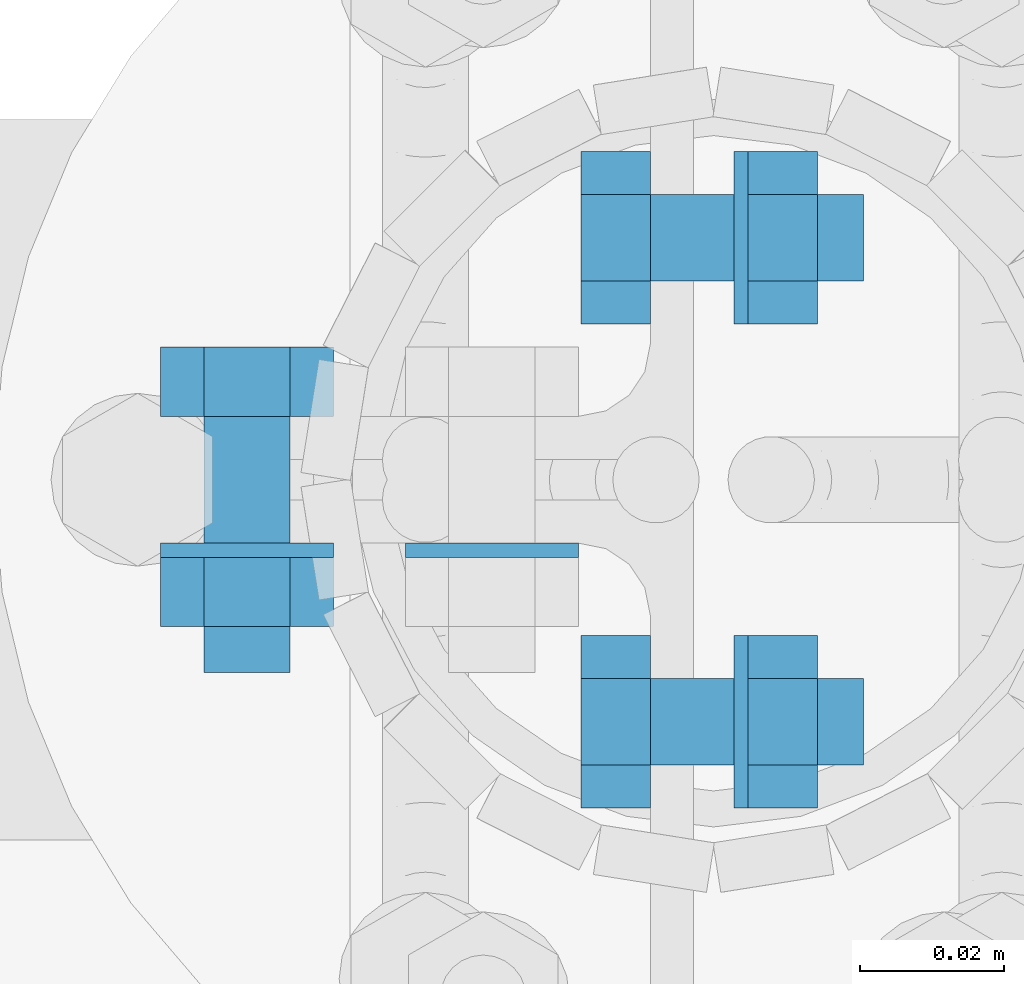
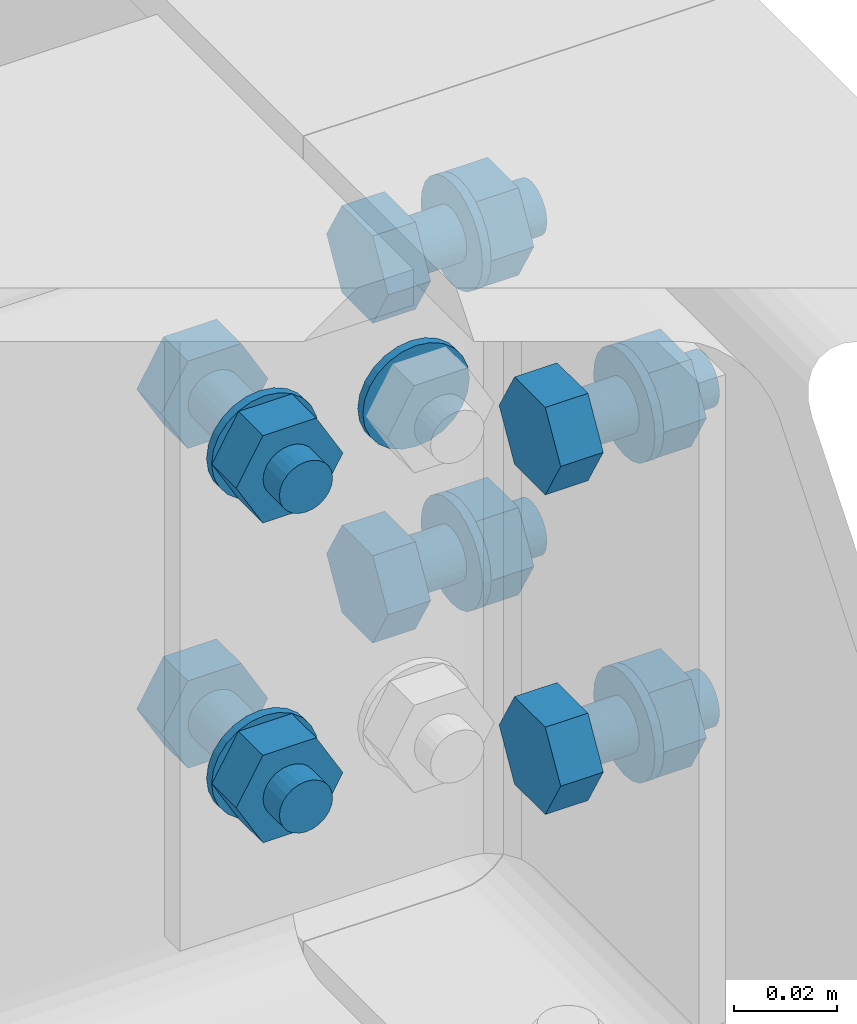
# One storey, part 71 of 84: 25 mechanical fasteners.
"""IFC4 building model written with IfcOpenShell, lengths in metres."""

from ifc_helpers import new_model, si_unit, frame, origin_with_axes, place, context, project, spatial, polyline, outline, extrude, type_object, element, save


model = new_model("IFC4")

# Units and contexts
model_context = context("Model", 3, precision=1e-05, world=origin_with_axes())
ifc_project = project(units=[si_unit("LENGTHUNIT", "METRE"), si_unit("AREAUNIT", "SQUARE_METRE"), si_unit("VOLUMEUNIT", "CUBIC_METRE"), si_unit("MASSUNIT", "GRAM", prefix="KILO"), si_unit("TIMEUNIT", "SECOND"), si_unit("PLANEANGLEUNIT", "RADIAN"), si_unit("SOLIDANGLEUNIT", "STERADIAN"), si_unit("THERMODYNAMICTEMPERATUREUNIT", "DEGREE_CELSIUS")], contexts=[model_context])

# Site, building, storey
placement_1 = place(None, origin_with_axes())
site = spatial("IfcSite", under=ifc_project, at=placement_1, Name="Italia", CompositionType="ELEMENT")
building = spatial("IfcBuilding", under=site, at=placement_1, Name="Tettoia", CompositionType="ELEMENT")
storey_placement = place(None, frame((0.0, 0.0, 4.199999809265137), z_axis=(0.0, 0.0, 1.0), x_axis=(1.0, 0.0, 0.0)))
storey = spatial("IfcBuildingStorey", under=building, at=storey_placement, Name="Storey 1", CompositionType="ELEMENT", Elevation=4.199999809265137)

# Mechanical fasteners
mechanical_fastener_type_1 = type_object("IfcMechanicalFastenerType", Name="Collegamento 0113_-016", PredefinedType="BOLT")
placement_2 = place(placement_1, origin_with_axes())
mechanical_fastener_1_placement = place(placement_2, origin_with_axes())
element("IfcMechanicalFastener", 1, at=mechanical_fastener_1_placement, inside=storey, type_object=mechanical_fastener_type_1, Name="Collegamento 0113_-016", NominalDiameter=0.024, context=model_context, shape_type="SweptSolid", body=[
    extrude(outline(polyline([(0.0, 0.0), (-0.000409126, -0.00310564), (-0.00160789, -0.00600004), (-0.00351524, -0.00848532), (-0.00600052, -0.0103922), (-0.00889397, -0.011591), (-0.0120001, -0.0120001), (-0.0151062, -0.011591), (-0.0179996, -0.0103922), (-0.0204849, -0.00848532), (-0.0223923, -0.00600004), (-0.023591, -0.00310564), (-0.0240002, 0.0), (-0.023591, 0.00310564), (-0.0223923, 0.00600004), (-0.0204849, 0.00848532), (-0.0179996, 0.0103922), (-0.0151062, 0.011591), (-0.0120001, 0.0120001), (-0.00889397, 0.011591), (-0.00600052, 0.0103922), (-0.00351524, 0.00848532), (-0.00160789, 0.00600004), (-0.000409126, 0.00310564), (0.0, 0.0)])), frame((11.2472, 13.9392, 4.338), z_axis=(0.0, 1.0, 0.0), x_axis=(-1.0, 0.0, 0.0)), (0.0, 0.0, 1.0), 0.00200081),
])
mechanical_fastener_type_2 = type_object("IfcMechanicalFastenerType", Name="Collegamento 0113_-016", PredefinedType="BOLT")
mechanical_fastener_2_placement = place(placement_2, origin_with_axes())
element("IfcMechanicalFastener", 2, at=mechanical_fastener_2_placement, inside=storey, type_object=mechanical_fastener_type_2, Name="Collegamento 0113_-016", NominalDiameter=0.0119997, context=model_context, shape_type="SweptSolid", body=[
    extrude(outline(polyline([(0.0, 0.0), (-0.0120001, 0.0), (-0.0179996, 0.0103922), (-0.0120001, 0.0207844), (0.0, 0.0207844), (0.00600052, 0.0103922), (0.0, 0.0)])), frame((11.2192, 13.9588, 4.25161), z_axis=(0.0, 1.0, 0.0), x_axis=(-1.0, 0.0, 0.0)), (0.0, 0.0, 1.0), 0.00960064),
])
mechanical_fastener_type_3 = type_object("IfcMechanicalFastenerType", Name="Collegamento 0113_-016", PredefinedType="BOLT")
mechanical_fastener_3_placement = place(placement_2, origin_with_axes())
element("IfcMechanicalFastener", 3, at=mechanical_fastener_3_placement, inside=storey, type_object=mechanical_fastener_type_3, Name="Collegamento 0113_-016", NominalDiameter=0.012, context=model_context, shape_type="SweptSolid", body=[
    extrude(outline(polyline([(0.0, 0.0), (-0.000204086, -0.00155306), (-0.000802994, -0.00299978), (-0.00175667, -0.00424242), (-0.00299931, -0.00519609), (-0.00444698, -0.00579548), (-0.00599957, -0.00600004), (-0.00755215, -0.00579548), (-0.00899982, -0.00519609), (-0.0102425, -0.00424242), (-0.0111961, -0.00299978), (-0.011795, -0.00155306), (-0.0119991, 0.0), (-0.011795, 0.00155306), (-0.0111961, 0.00299978), (-0.0102425, 0.00424242), (-0.00899982, 0.00519609), (-0.00755215, 0.00579548), (-0.00599957, 0.00600004), (-0.00444698, 0.00579548), (-0.00299931, 0.00519609), (-0.00175667, 0.00424242), (-0.000802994, 0.00299978), (-0.000204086, 0.00155306), (0.0, 0.0)])), frame((11.2192, 13.9232, 4.262), z_axis=(0.0, 1.0, 0.0), x_axis=(-1.0, 0.0, 0.0)), (0.0, 0.0, 1.0), 0.0355997),
])
mechanical_fastener_type_4 = type_object("IfcMechanicalFastenerType", Name="Collegamento 0113_-016", PredefinedType="BOLT")
mechanical_fastener_4_placement = place(placement_2, origin_with_axes())
element("IfcMechanicalFastener", 4, at=mechanical_fastener_4_placement, inside=storey, type_object=mechanical_fastener_type_4, Name="Collegamento 0113_-016", NominalDiameter=0.0119997, context=model_context, shape_type="SweptSolid", body=[
    extrude(outline(polyline([(0.0, 0.0), (-0.0120001, 0.0), (-0.0179996, 0.0103922), (-0.0120001, 0.0207844), (0.0, 0.0207844), (0.00600052, 0.0103922), (0.0, 0.0)])), frame((11.2192, 13.9296, 4.25161), z_axis=(0.0, 1.0, 0.0), x_axis=(-1.0, 0.0, 0.0)), (0.0, 0.0, 1.0), 0.00959969),
])
mechanical_fastener_type_5 = type_object("IfcMechanicalFastenerType", Name="Collegamento 0113_-016", PredefinedType="BOLT")
mechanical_fastener_5_placement = place(placement_2, origin_with_axes())
element("IfcMechanicalFastener", 5, at=mechanical_fastener_5_placement, inside=storey, type_object=mechanical_fastener_type_5, Name="Collegamento 0113_-016", NominalDiameter=0.024, context=model_context, shape_type="SweptSolid", body=[
    extrude(outline(polyline([(0.0, 0.0), (-0.000409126, -0.00310564), (-0.00160789, -0.00600004), (-0.00351524, -0.00848532), (-0.00600052, -0.0103922), (-0.00889397, -0.011591), (-0.0120001, -0.0120001), (-0.0151062, -0.011591), (-0.0179996, -0.0103922), (-0.0204849, -0.00848532), (-0.0223923, -0.00600004), (-0.023591, -0.00310564), (-0.0240002, 0.0), (-0.023591, 0.00310564), (-0.0223923, 0.00600004), (-0.0204849, 0.00848532), (-0.0179996, 0.0103922), (-0.0151062, 0.011591), (-0.0120001, 0.0120001), (-0.00889397, 0.011591), (-0.00600052, 0.0103922), (-0.00351524, 0.00848532), (-0.00160789, 0.00600004), (-0.000409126, 0.00310564), (0.0, 0.0)])), frame((11.2132, 13.9392, 4.262), z_axis=(0.0, 1.0, 0.0), x_axis=(-1.0, 0.0, 0.0)), (0.0, 0.0, 1.0), 0.00200081),
])
mechanical_fastener_type_6 = type_object("IfcMechanicalFastenerType", Name="Collegamento 0113_-016", PredefinedType="BOLT")
mechanical_fastener_6_placement = place(placement_2, origin_with_axes())
element("IfcMechanicalFastener", 6, at=mechanical_fastener_6_placement, inside=storey, type_object=mechanical_fastener_type_6, Name="Collegamento 0113_-016", NominalDiameter=0.0119997, context=model_context, shape_type="SweptSolid", body=[
    extrude(outline(polyline([(0.0, 0.0), (-0.0120001, 0.0), (-0.0179996, 0.0103922), (-0.0120001, 0.0207844), (0.0, 0.0207844), (0.00600052, 0.0103922), (0.0, 0.0)])), frame((11.2192, 13.9588, 4.32761), z_axis=(0.0, 1.0, 0.0), x_axis=(-1.0, 0.0, 0.0)), (0.0, 0.0, 1.0), 0.00960064),
])
mechanical_fastener_type_7 = type_object("IfcMechanicalFastenerType", Name="Collegamento 0113_-016", PredefinedType="BOLT")
mechanical_fastener_7_placement = place(placement_2, origin_with_axes())
element("IfcMechanicalFastener", 7, at=mechanical_fastener_7_placement, inside=storey, type_object=mechanical_fastener_type_7, Name="Collegamento 0113_-016", NominalDiameter=0.012, context=model_context, shape_type="SweptSolid", body=[
    extrude(outline(polyline([(0.0, 0.0), (-0.000204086, -0.00155306), (-0.000802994, -0.00299978), (-0.00175667, -0.00424242), (-0.00299931, -0.00519609), (-0.00444698, -0.00579548), (-0.00599957, -0.00600004), (-0.00755215, -0.00579548), (-0.00899982, -0.00519609), (-0.0102425, -0.00424242), (-0.0111961, -0.00299978), (-0.011795, -0.00155306), (-0.0119991, 0.0), (-0.011795, 0.00155306), (-0.0111961, 0.00299978), (-0.0102425, 0.00424242), (-0.00899982, 0.00519609), (-0.00755215, 0.00579548), (-0.00599957, 0.00600004), (-0.00444698, 0.00579548), (-0.00299931, 0.00519609), (-0.00175667, 0.00424242), (-0.000802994, 0.00299978), (-0.000204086, 0.00155306), (0.0, 0.0)])), frame((11.2192, 13.9232, 4.338), z_axis=(0.0, 1.0, 0.0), x_axis=(-1.0, 0.0, 0.0)), (0.0, 0.0, 1.0), 0.0355997),
])
mechanical_fastener_type_8 = type_object("IfcMechanicalFastenerType", Name="Collegamento 0113_-016", PredefinedType="BOLT")
mechanical_fastener_8_placement = place(placement_2, origin_with_axes())
element("IfcMechanicalFastener", 8, at=mechanical_fastener_8_placement, inside=storey, type_object=mechanical_fastener_type_8, Name="Collegamento 0113_-016", NominalDiameter=0.0119997, context=model_context, shape_type="SweptSolid", body=[
    extrude(outline(polyline([(0.0, 0.0), (-0.0120001, 0.0), (-0.0179996, 0.0103922), (-0.0120001, 0.0207844), (0.0, 0.0207844), (0.00600052, 0.0103922), (0.0, 0.0)])), frame((11.2192, 13.9296, 4.32761), z_axis=(0.0, 1.0, 0.0), x_axis=(-1.0, 0.0, 0.0)), (0.0, 0.0, 1.0), 0.00959969),
])
mechanical_fastener_type_9 = type_object("IfcMechanicalFastenerType", Name="Collegamento 0113_-016", PredefinedType="BOLT")
mechanical_fastener_9_placement = place(placement_2, origin_with_axes())
element("IfcMechanicalFastener", 9, at=mechanical_fastener_9_placement, inside=storey, type_object=mechanical_fastener_type_9, Name="Collegamento 0113_-016", NominalDiameter=0.024, context=model_context, shape_type="SweptSolid", body=[
    extrude(outline(polyline([(0.0, 0.0), (-0.000409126, -0.00310564), (-0.00160789, -0.00600004), (-0.00351524, -0.00848532), (-0.00600052, -0.0103922), (-0.00889397, -0.011591), (-0.0120001, -0.0120001), (-0.0151062, -0.011591), (-0.0179996, -0.0103922), (-0.0204849, -0.00848532), (-0.0223923, -0.00600004), (-0.023591, -0.00310564), (-0.0240002, 0.0), (-0.023591, 0.00310564), (-0.0223923, 0.00600004), (-0.0204849, 0.00848532), (-0.0179996, 0.0103922), (-0.0151062, 0.011591), (-0.0120001, 0.0120001), (-0.00889397, 0.011591), (-0.00600052, 0.0103922), (-0.00351524, 0.00848532), (-0.00160789, 0.00600004), (-0.000409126, 0.00310564), (0.0, 0.0)])), frame((11.2132, 13.9392, 4.338), z_axis=(0.0, 1.0, 0.0), x_axis=(-1.0, 0.0, 0.0)), (0.0, 0.0, 1.0), 0.00200081),
])
mechanical_fastener_type_10 = type_object("IfcMechanicalFastenerType", Name="Collegamento 0113_-016", PredefinedType="BOLT")
mechanical_fastener_10_placement = place(placement_2, origin_with_axes())
element("IfcMechanicalFastener", 10, at=mechanical_fastener_10_placement, inside=storey, type_object=mechanical_fastener_type_10, Name="Collegamento 0113_-016", NominalDiameter=0.0119997, context=model_context, shape_type="SweptSolid", body=[
    extrude(outline(polyline([(0.0, 0.0), (-0.0120001, 0.0), (-0.0180006, 0.0103922), (-0.0120001, 0.0207844), (0.0, 0.0207844), (0.00599957, 0.0103922), (0.0, 0.0)])), frame((11.2812, 13.9104, 4.25161), z_axis=(-1.0, 0.0, 0.0), x_axis=(0.0, -1.0, 0.0)), (0.0, 0.0, 1.0), 0.00960064),
])
mechanical_fastener_type_11 = type_object("IfcMechanicalFastenerType", Name="Collegamento 0113_-016", PredefinedType="BOLT")
mechanical_fastener_11_placement = place(placement_2, origin_with_axes())
element("IfcMechanicalFastener", 11, at=mechanical_fastener_11_placement, inside=storey, type_object=mechanical_fastener_type_11, Name="Collegamento 0113_-016", NominalDiameter=0.012, context=model_context, shape_type="SweptSolid", body=[
    extrude(outline(polyline([(0.0, 0.0), (-0.000204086, -0.00155306), (-0.000802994, -0.00299978), (-0.00175667, -0.00424242), (-0.00299931, -0.00519609), (-0.00444698, -0.00579548), (-0.00599957, -0.00600004), (-0.00755215, -0.00579548), (-0.00899982, -0.00519609), (-0.0102425, -0.00424242), (-0.0111961, -0.00299978), (-0.011795, -0.00155306), (-0.0119991, 0.0), (-0.011795, 0.00155306), (-0.0111961, 0.00299978), (-0.0102425, 0.00424242), (-0.00899982, 0.00519609), (-0.00755215, 0.00579548), (-0.00599957, 0.00600004), (-0.00444698, 0.00579548), (-0.00299931, 0.00519609), (-0.00175667, 0.00424242), (-0.000802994, 0.00299978), (-0.000204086, 0.00155306), (0.0, 0.0)])), frame((11.3108, 13.9104, 4.262), z_axis=(-1.0, 0.0, 0.0), x_axis=(0.0, -1.0, 0.0)), (0.0, 0.0, 1.0), 0.0295992),
])
mechanical_fastener_type_12 = type_object("IfcMechanicalFastenerType", Name="Collegamento 0113_-016", PredefinedType="BOLT")
mechanical_fastener_12_placement = place(placement_2, origin_with_axes())
element("IfcMechanicalFastener", 12, at=mechanical_fastener_12_placement, inside=storey, type_object=mechanical_fastener_type_12, Name="Collegamento 0113_-016", NominalDiameter=0.0119997, context=model_context, shape_type="SweptSolid", body=[
    extrude(outline(polyline([(0.0, 0.0), (-0.0120001, 0.0), (-0.0180006, 0.0103922), (-0.0120001, 0.0207844), (0.0, 0.0207844), (0.00599957, 0.0103922), (0.0, 0.0)])), frame((11.3044, 13.9104, 4.25161), z_axis=(-1.0, 0.0, 0.0), x_axis=(0.0, -1.0, 0.0)), (0.0, 0.0, 1.0), 0.00960064),
])
mechanical_fastener_type_13 = type_object("IfcMechanicalFastenerType", Name="Collegamento 0113_-016", PredefinedType="BOLT")
mechanical_fastener_13_placement = place(placement_2, origin_with_axes())
element("IfcMechanicalFastener", 13, at=mechanical_fastener_13_placement, inside=storey, type_object=mechanical_fastener_type_13, Name="Collegamento 0113_-016", NominalDiameter=0.024, context=model_context, shape_type="SweptSolid", body=[
    extrude(outline(polyline([(0.0, 0.0), (-0.000409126, -0.00310564), (-0.00160789, -0.00600004), (-0.00351524, -0.00848532), (-0.00600052, -0.0103922), (-0.00889397, -0.011591), (-0.0120001, -0.0120001), (-0.0151062, -0.011591), (-0.0179996, -0.0103922), (-0.0204849, -0.00848532), (-0.0223923, -0.00600004), (-0.023591, -0.00310564), (-0.0240002, 0.0), (-0.023591, 0.00310564), (-0.0223923, 0.00600004), (-0.0204849, 0.00848532), (-0.0179996, 0.0103922), (-0.0151062, 0.011591), (-0.0120001, 0.0120001), (-0.00889397, 0.011591), (-0.00600052, 0.0103922), (-0.00351524, 0.00848532), (-0.00160789, 0.00600004), (-0.000409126, 0.00310564), (0.0, 0.0)])), frame((11.2948, 13.9044, 4.262), z_axis=(-1.0, 0.0, 0.0), x_axis=(0.0, -1.0, 0.0)), (0.0, 0.0, 1.0), 0.00199986),
])
mechanical_fastener_type_14 = type_object("IfcMechanicalFastenerType", Name="Collegamento 0113_-016", PredefinedType="BOLT")
mechanical_fastener_14_placement = place(placement_2, origin_with_axes())
element("IfcMechanicalFastener", 14, at=mechanical_fastener_14_placement, inside=storey, type_object=mechanical_fastener_type_14, Name="Collegamento 0113_-016", NominalDiameter=0.0119997, context=model_context, shape_type="SweptSolid", body=[
    extrude(outline(polyline([(0.0, 0.0), (-0.0120001, 0.0), (-0.0180006, 0.0103922), (-0.0120001, 0.0207844), (0.0, 0.0207844), (0.00599957, 0.0103922), (0.0, 0.0)])), frame((11.2812, 13.9104, 4.32761), z_axis=(-1.0, 0.0, 0.0), x_axis=(0.0, -1.0, 0.0)), (0.0, 0.0, 1.0), 0.00960064),
])
mechanical_fastener_type_15 = type_object("IfcMechanicalFastenerType", Name="Collegamento 0113_-016", PredefinedType="BOLT")
mechanical_fastener_15_placement = place(placement_2, origin_with_axes())
element("IfcMechanicalFastener", 15, at=mechanical_fastener_15_placement, inside=storey, type_object=mechanical_fastener_type_15, Name="Collegamento 0113_-016", NominalDiameter=0.012, context=model_context, shape_type="SweptSolid", body=[
    extrude(outline(polyline([(0.0, 0.0), (-0.000204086, -0.00155306), (-0.000802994, -0.00299978), (-0.00175667, -0.00424242), (-0.00299931, -0.00519609), (-0.00444698, -0.00579548), (-0.00599957, -0.00600004), (-0.00755215, -0.00579548), (-0.00899982, -0.00519609), (-0.0102425, -0.00424242), (-0.0111961, -0.00299978), (-0.011795, -0.00155306), (-0.0119991, 0.0), (-0.011795, 0.00155306), (-0.0111961, 0.00299978), (-0.0102425, 0.00424242), (-0.00899982, 0.00519609), (-0.00755215, 0.00579548), (-0.00599957, 0.00600004), (-0.00444698, 0.00579548), (-0.00299931, 0.00519609), (-0.00175667, 0.00424242), (-0.000802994, 0.00299978), (-0.000204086, 0.00155306), (0.0, 0.0)])), frame((11.3108, 13.9104, 4.338), z_axis=(-1.0, 0.0, 0.0), x_axis=(0.0, -1.0, 0.0)), (0.0, 0.0, 1.0), 0.0295992),
])
mechanical_fastener_type_16 = type_object("IfcMechanicalFastenerType", Name="Collegamento 0113_-016", PredefinedType="BOLT")
mechanical_fastener_16_placement = place(placement_2, origin_with_axes())
element("IfcMechanicalFastener", 16, at=mechanical_fastener_16_placement, inside=storey, type_object=mechanical_fastener_type_16, Name="Collegamento 0113_-016", NominalDiameter=0.0119997, context=model_context, shape_type="SweptSolid", body=[
    extrude(outline(polyline([(0.0, 0.0), (-0.0120001, 0.0), (-0.0180006, 0.0103922), (-0.0120001, 0.0207844), (0.0, 0.0207844), (0.00599957, 0.0103922), (0.0, 0.0)])), frame((11.3044, 13.9104, 4.32761), z_axis=(-1.0, 0.0, 0.0), x_axis=(0.0, -1.0, 0.0)), (0.0, 0.0, 1.0), 0.00960064),
])
mechanical_fastener_type_17 = type_object("IfcMechanicalFastenerType", Name="Collegamento 0113_-016", PredefinedType="BOLT")
mechanical_fastener_17_placement = place(placement_2, origin_with_axes())
element("IfcMechanicalFastener", 17, at=mechanical_fastener_17_placement, inside=storey, type_object=mechanical_fastener_type_17, Name="Collegamento 0113_-016", NominalDiameter=0.024, context=model_context, shape_type="SweptSolid", body=[
    extrude(outline(polyline([(0.0, 0.0), (-0.000409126, -0.00310564), (-0.00160789, -0.00600004), (-0.00351524, -0.00848532), (-0.00600052, -0.0103922), (-0.00889397, -0.011591), (-0.0120001, -0.0120001), (-0.0151062, -0.011591), (-0.0179996, -0.0103922), (-0.0204849, -0.00848532), (-0.0223923, -0.00600004), (-0.023591, -0.00310564), (-0.0240002, 0.0), (-0.023591, 0.00310564), (-0.0223923, 0.00600004), (-0.0204849, 0.00848532), (-0.0179996, 0.0103922), (-0.0151062, 0.011591), (-0.0120001, 0.0120001), (-0.00889397, 0.011591), (-0.00600052, 0.0103922), (-0.00351524, 0.00848532), (-0.00160789, 0.00600004), (-0.000409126, 0.00310564), (0.0, 0.0)])), frame((11.2948, 13.9044, 4.338), z_axis=(-1.0, 0.0, 0.0), x_axis=(0.0, -1.0, 0.0)), (0.0, 0.0, 1.0), 0.00199986),
])
mechanical_fastener_type_18 = type_object("IfcMechanicalFastenerType", Name="Collegamento 0113_-016", PredefinedType="BOLT")
mechanical_fastener_18_placement = place(placement_2, origin_with_axes())
element("IfcMechanicalFastener", 18, at=mechanical_fastener_18_placement, inside=storey, type_object=mechanical_fastener_type_18, Name="Collegamento 0113_-016", NominalDiameter=0.0119997, context=model_context, shape_type="SweptSolid", body=[
    extrude(outline(polyline([(0.0, 0.0), (-0.0120001, 0.0), (-0.0180006, 0.0103922), (-0.0120001, 0.0207844), (0.0, 0.0207844), (0.00599957, 0.0103922), (0.0, 0.0)])), frame((11.2716, 13.9896, 4.25161), z_axis=(1.0, 0.0, 0.0), x_axis=(0.0, 1.0, 0.0)), (0.0, 0.0, 1.0), 0.00960064),
])
mechanical_fastener_type_19 = type_object("IfcMechanicalFastenerType", Name="Collegamento 0113_-016", PredefinedType="BOLT")
mechanical_fastener_19_placement = place(placement_2, origin_with_axes())
element("IfcMechanicalFastener", 19, at=mechanical_fastener_19_placement, inside=storey, type_object=mechanical_fastener_type_19, Name="Collegamento 0113_-016", NominalDiameter=0.012, context=model_context, shape_type="SweptSolid", body=[
    extrude(outline(polyline([(0.0, 0.0), (-0.000204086, -0.00155306), (-0.000802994, -0.00299978), (-0.00175667, -0.00424242), (-0.00299931, -0.00519609), (-0.00444698, -0.00579548), (-0.00599957, -0.00600004), (-0.00755215, -0.00579548), (-0.00899982, -0.00519609), (-0.0102425, -0.00424242), (-0.0111961, -0.00299978), (-0.011795, -0.00155306), (-0.0119991, 0.0), (-0.011795, 0.00155306), (-0.0111961, 0.00299978), (-0.0102425, 0.00424242), (-0.00899982, 0.00519609), (-0.00755215, 0.00579548), (-0.00599957, 0.00600004), (-0.00444698, 0.00579548), (-0.00299931, 0.00519609), (-0.00175667, 0.00424242), (-0.000802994, 0.00299978), (-0.000204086, 0.00155306), (0.0, 0.0)])), frame((11.2812, 13.9896, 4.262), z_axis=(1.0, 0.0, 0.0), x_axis=(0.0, 1.0, 0.0)), (0.0, 0.0, 1.0), 0.0295992),
])
mechanical_fastener_type_20 = type_object("IfcMechanicalFastenerType", Name="Collegamento 0113_-016", PredefinedType="BOLT")
mechanical_fastener_20_placement = place(placement_2, origin_with_axes())
element("IfcMechanicalFastener", 20, at=mechanical_fastener_20_placement, inside=storey, type_object=mechanical_fastener_type_20, Name="Collegamento 0113_-016", NominalDiameter=0.0119997, context=model_context, shape_type="SweptSolid", body=[
    extrude(outline(polyline([(0.0, 0.0), (-0.0120001, 0.0), (-0.0180006, 0.0103922), (-0.0120001, 0.0207844), (0.0, 0.0207844), (0.00599957, 0.0103922), (0.0, 0.0)])), frame((11.2948, 13.9896, 4.25161), z_axis=(1.0, 0.0, 0.0), x_axis=(0.0, 1.0, 0.0)), (0.0, 0.0, 1.0), 0.00960064),
])
mechanical_fastener_type_21 = type_object("IfcMechanicalFastenerType", Name="Collegamento 0113_-016", PredefinedType="BOLT")
mechanical_fastener_21_placement = place(placement_2, origin_with_axes())
element("IfcMechanicalFastener", 21, at=mechanical_fastener_21_placement, inside=storey, type_object=mechanical_fastener_type_21, Name="Collegamento 0113_-016", NominalDiameter=0.024, context=model_context, shape_type="SweptSolid", body=[
    extrude(outline(polyline([(0.0, 0.0), (-0.000409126, -0.00310564), (-0.00160789, -0.00600004), (-0.00351524, -0.00848532), (-0.00600052, -0.0103922), (-0.00889397, -0.011591), (-0.0120001, -0.0120001), (-0.0151062, -0.011591), (-0.0179996, -0.0103922), (-0.0204849, -0.00848532), (-0.0223923, -0.00600004), (-0.023591, -0.00310564), (-0.0240002, 0.0), (-0.023591, 0.00310564), (-0.0223923, 0.00600004), (-0.0204849, 0.00848532), (-0.0179996, 0.0103922), (-0.0151062, 0.011591), (-0.0120001, 0.0120001), (-0.00889397, 0.011591), (-0.00600052, 0.0103922), (-0.00351524, 0.00848532), (-0.00160789, 0.00600004), (-0.000409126, 0.00310564), (0.0, 0.0)])), frame((11.2928, 13.9956, 4.262), z_axis=(1.0, 0.0, 0.0), x_axis=(0.0, 1.0, 0.0)), (0.0, 0.0, 1.0), 0.00199986),
])
mechanical_fastener_type_22 = type_object("IfcMechanicalFastenerType", Name="Collegamento 0113_-016", PredefinedType="BOLT")
mechanical_fastener_22_placement = place(placement_2, origin_with_axes())
element("IfcMechanicalFastener", 22, at=mechanical_fastener_22_placement, inside=storey, type_object=mechanical_fastener_type_22, Name="Collegamento 0113_-016", NominalDiameter=0.0119997, context=model_context, shape_type="SweptSolid", body=[
    extrude(outline(polyline([(0.0, 0.0), (-0.0120001, 0.0), (-0.0180006, 0.0103922), (-0.0120001, 0.0207844), (0.0, 0.0207844), (0.00599957, 0.0103922), (0.0, 0.0)])), frame((11.2716, 13.9896, 4.32761), z_axis=(1.0, 0.0, 0.0), x_axis=(0.0, 1.0, 0.0)), (0.0, 0.0, 1.0), 0.00960064),
])
mechanical_fastener_type_23 = type_object("IfcMechanicalFastenerType", Name="Collegamento 0113_-016", PredefinedType="BOLT")
mechanical_fastener_23_placement = place(placement_2, origin_with_axes())
element("IfcMechanicalFastener", 23, at=mechanical_fastener_23_placement, inside=storey, type_object=mechanical_fastener_type_23, Name="Collegamento 0113_-016", NominalDiameter=0.012, context=model_context, shape_type="SweptSolid", body=[
    extrude(outline(polyline([(0.0, 0.0), (-0.000204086, -0.00155306), (-0.000802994, -0.00299978), (-0.00175667, -0.00424242), (-0.00299931, -0.00519609), (-0.00444698, -0.00579548), (-0.00599957, -0.00600004), (-0.00755215, -0.00579548), (-0.00899982, -0.00519609), (-0.0102425, -0.00424242), (-0.0111961, -0.00299978), (-0.011795, -0.00155306), (-0.0119991, 0.0), (-0.011795, 0.00155306), (-0.0111961, 0.00299978), (-0.0102425, 0.00424242), (-0.00899982, 0.00519609), (-0.00755215, 0.00579548), (-0.00599957, 0.00600004), (-0.00444698, 0.00579548), (-0.00299931, 0.00519609), (-0.00175667, 0.00424242), (-0.000802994, 0.00299978), (-0.000204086, 0.00155306), (0.0, 0.0)])), frame((11.2812, 13.9896, 4.338), z_axis=(1.0, 0.0, 0.0), x_axis=(0.0, 1.0, 0.0)), (0.0, 0.0, 1.0), 0.0295992),
])
mechanical_fastener_type_24 = type_object("IfcMechanicalFastenerType", Name="Collegamento 0113_-016", PredefinedType="BOLT")
mechanical_fastener_24_placement = place(placement_2, origin_with_axes())
element("IfcMechanicalFastener", 24, at=mechanical_fastener_24_placement, inside=storey, type_object=mechanical_fastener_type_24, Name="Collegamento 0113_-016", NominalDiameter=0.0119997, context=model_context, shape_type="SweptSolid", body=[
    extrude(outline(polyline([(0.0, 0.0), (-0.0120001, 0.0), (-0.0180006, 0.0103922), (-0.0120001, 0.0207844), (0.0, 0.0207844), (0.00599957, 0.0103922), (0.0, 0.0)])), frame((11.2948, 13.9896, 4.32761), z_axis=(1.0, 0.0, 0.0), x_axis=(0.0, 1.0, 0.0)), (0.0, 0.0, 1.0), 0.00960064),
])
mechanical_fastener_type_25 = type_object("IfcMechanicalFastenerType", Name="Collegamento 0113_-016", PredefinedType="BOLT")
mechanical_fastener_25_placement = place(placement_2, origin_with_axes())
element("IfcMechanicalFastener", 25, at=mechanical_fastener_25_placement, inside=storey, type_object=mechanical_fastener_type_25, Name="Collegamento 0113_-016", NominalDiameter=0.024, context=model_context, shape_type="SweptSolid", body=[
    extrude(outline(polyline([(0.0, 0.0), (-0.000409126, -0.00310564), (-0.00160789, -0.00600004), (-0.00351524, -0.00848532), (-0.00600052, -0.0103922), (-0.00889397, -0.011591), (-0.0120001, -0.0120001), (-0.0151062, -0.011591), (-0.0179996, -0.0103922), (-0.0204849, -0.00848532), (-0.0223923, -0.00600004), (-0.023591, -0.00310564), (-0.0240002, 0.0), (-0.023591, 0.00310564), (-0.0223923, 0.00600004), (-0.0204849, 0.00848532), (-0.0179996, 0.0103922), (-0.0151062, 0.011591), (-0.0120001, 0.0120001), (-0.00889397, 0.011591), (-0.00600052, 0.0103922), (-0.00351524, 0.00848532), (-0.00160789, 0.00600004), (-0.000409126, 0.00310564), (0.0, 0.0)])), frame((11.2928, 13.9956, 4.338), z_axis=(1.0, 0.0, 0.0), x_axis=(0.0, 1.0, 0.0)), (0.0, 0.0, 1.0), 0.00199986),
])

save(model, "model.ifc")
